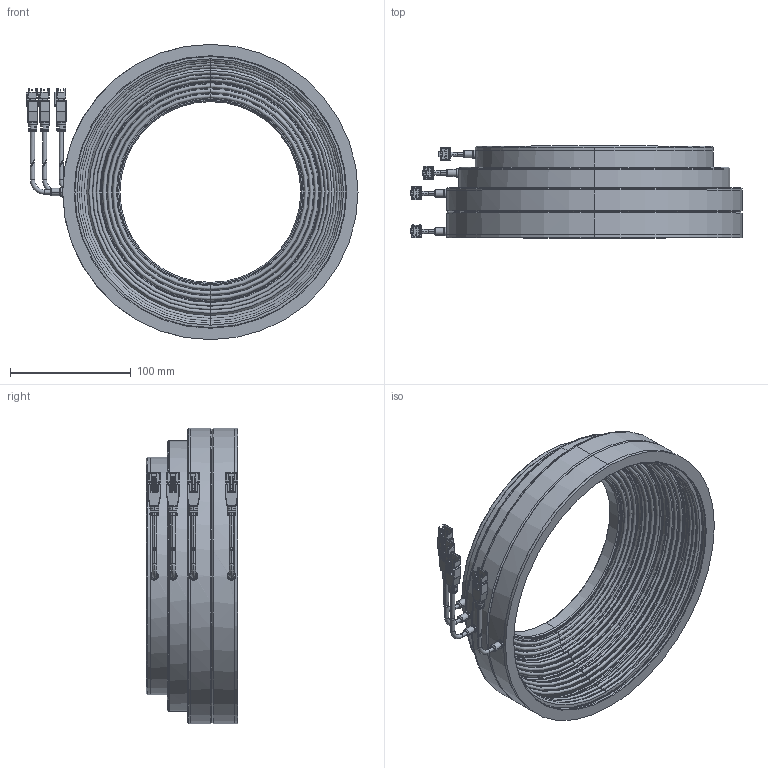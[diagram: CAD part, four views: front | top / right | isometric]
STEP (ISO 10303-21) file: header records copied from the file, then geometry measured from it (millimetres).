
FILE_DESCRIPTION (( 'STEP AP203' ), '1' );
FILE_NAME ('CST-SAI245150-M-¼òÒ×3DÍ¼.STEP', '2023-05-23T06:45:12', ( '' ), ( '' ), 'SwSTEP 2.0', 'SolidWorks 2018', '' );
FILE_SCHEMA (( 'CONFIG_CONTROL_DESIGN' ));
Length unit declared in the file: millimetre
Products named in the file (2): CST-SAI245150-M-潠眢3D芞
Bounding box: 275.45 x 76.05 x 245 mm (x, y, z)
Volume: 633943.3 mm3; surface area: 452737 mm2
Topology: 20 solids, 20 shells, 1487 faces, 3558 edges, 2136 vertices
Faces by surface type: plane 617, cylinder 422, cone 208, torus 120, bspline 120
Entity records: 45501 total; most frequent: CARTESIAN_POINT 11183, DIRECTION 7384, ORIENTED_EDGE 6972, EDGE_CURVE 3486, AXIS2_PLACEMENT_3D 2737, VERTEX_POINT 2136, LINE 1910, VECTOR 1910
